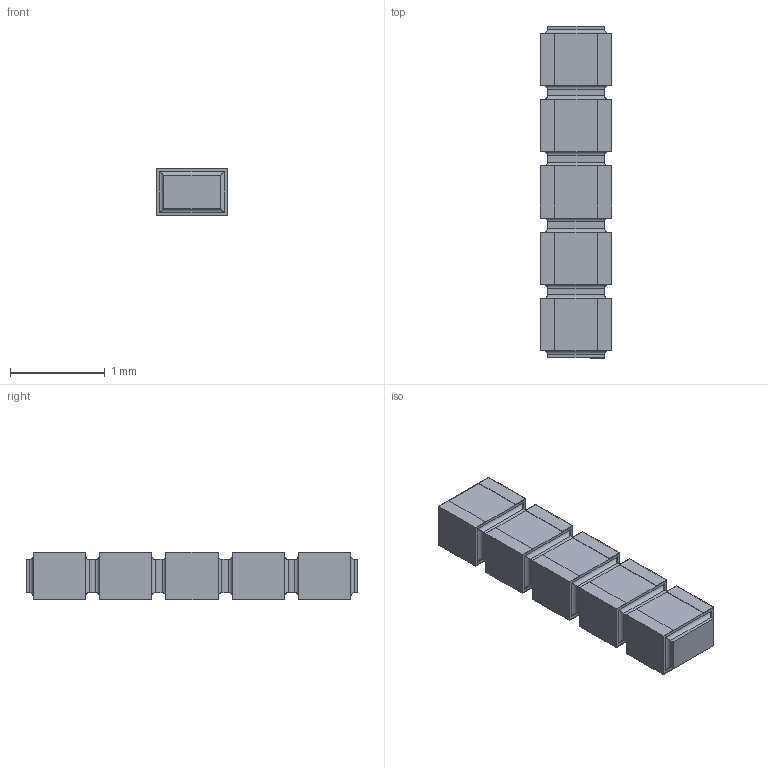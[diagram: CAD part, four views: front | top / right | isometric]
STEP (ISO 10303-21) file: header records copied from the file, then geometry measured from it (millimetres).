
FILE_DESCRIPTION(/* description */ (''),/* implementation_level */ '2;1');
FILE_NAME(/* name */ 'S:\DOCUMENT\AUTOCAD\3D_Modèles\10_3D-pour-VISHAY-COM\PRA\PRA073\PRA073-I2_à_I8\10_IGES\PRA073I5_B-or-N-or-G.stp',/* time_stamp */ '2017-12-21T10:47:11+01:00',/* author */ ('dparmentier'),/* organization */ ('unknown'),/* preprocessor_version */ 'ST-DEVELOPER v17',/* originating_system */ 'Autodesk Inventor 2018',/* authorisation */ '');
FILE_SCHEMA (('AUTOMOTIVE_DESIGN { 1 0 10303 214 3 1 1 }'));
Length unit declared in the file: millimetre
Products named in the file (1): PRA073I5_B-or-N-or-G
Bounding box: 0.75 x 3.5 x 0.5 mm (x, y, z)
Volume: 1.2 mm3; surface area: 18.7 mm2
Topology: 11 solids, 11 shells, 196 faces, 452 edges, 288 vertices
Faces by surface type: plane 156, cylinder 40
Entity records: 5459 total; most frequent: CARTESIAN_POINT 937, ORIENTED_EDGE 904, DIRECTION 886, EDGE_CURVE 452, LINE 412, VECTOR 412, VERTEX_POINT 288, AXIS2_PLACEMENT_3D 237
